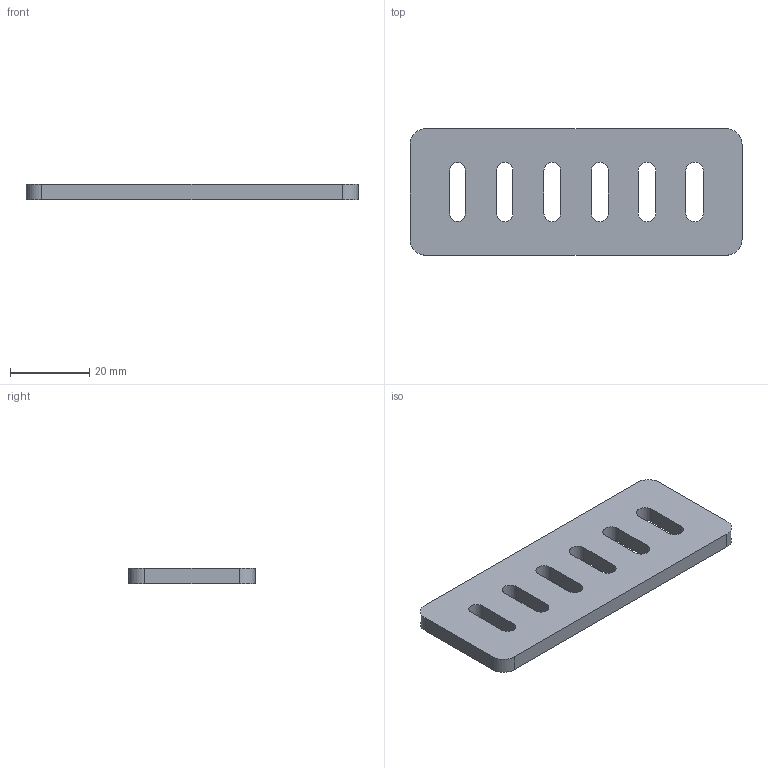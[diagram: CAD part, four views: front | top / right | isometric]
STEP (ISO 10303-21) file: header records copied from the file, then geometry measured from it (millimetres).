
FILE_DESCRIPTION(('FreeCAD Model'),'2;1');
FILE_NAME('Open CASCADE Shape Model','2026-10-17T00:49:22',(''),(''), 'Open CASCADE STEP processor 7.8','FreeCAD','Unknown');
FILE_SCHEMA(('AUTOMOTIVE_DESIGN { 1 0 10303 214 1 1 1 1 }'));
Length unit declared in the file: millimetre
Products named in the file (1): 05 Coupon ajustement
Bounding box: 84 x 32 x 4 mm (x, y, z)
Volume: 9260.2 mm3; surface area: 6367.1 mm2
Topology: 1 solids, 1 shells, 34 faces, 96 edges, 64 vertices
Faces by surface type: plane 18, cylinder 16
Entity records: 1146 total; most frequent: DIRECTION 198, CARTESIAN_POINT 195, ORIENTED_EDGE 192, EDGE_CURVE 96, AXIS2_PLACEMENT_3D 67, VERTEX_POINT 64, LINE 64, VECTOR 64
